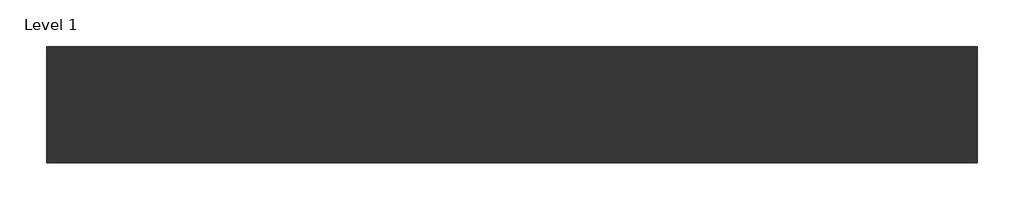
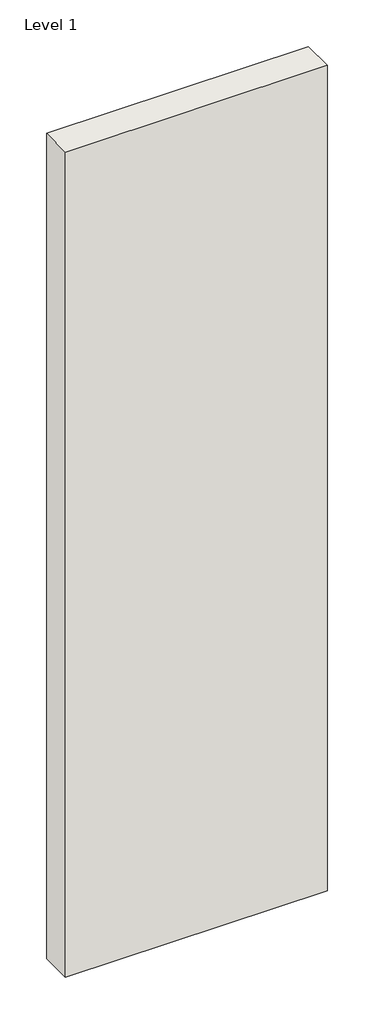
# One storey: 1 wall.
"""IFC4 building model written with IfcOpenShell, lengths in millimetres."""

from ifc_helpers import new_model, si_unit, origin, origin_with_axes, place, context, project, spatial, polyline, outline, extrude, element, save

model = new_model("IFC4")

# Units and contexts
model_context = context("Model", 3, world=origin())
ifc_project = project(units=[si_unit("LENGTHUNIT", "METRE", prefix="MILLI")], contexts=[model_context])

# Site, building, storey
site = spatial("IfcSite", under=ifc_project)
building = spatial("IfcBuilding", under=site)
storey = spatial("IfcBuildingStorey", under=building, Name="Level 1", Elevation=0.0)

# Wall
placement = place(None, origin())
element("IfcWall", 1, ObjectType="ARENA APTA 150mm", at=placement, inside=storey, context=model_context, shape_type="SweptSolid", body=[
    extrude(outline(polyline([(29202.1501797, -2019.4160036), (28002.1501797, -2019.4160036), (28002.1501797, -1869.4160036), (29202.1501797, -1869.4160036), (29202.1501797, -2019.4160036)])), origin_with_axes(), (0.0, 0.0, 1.0), 4000.0),
])

save(model, "model.ifc")
